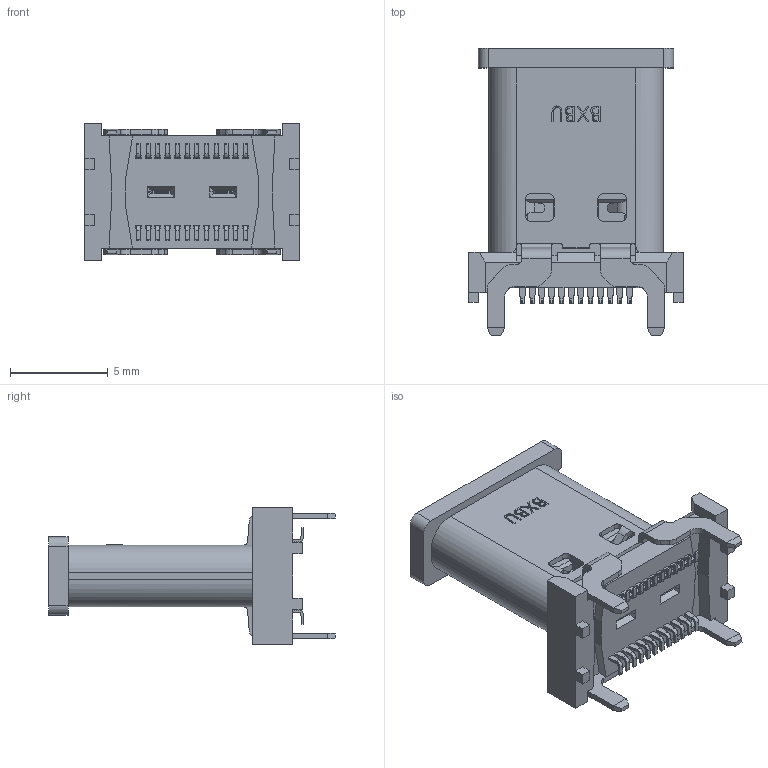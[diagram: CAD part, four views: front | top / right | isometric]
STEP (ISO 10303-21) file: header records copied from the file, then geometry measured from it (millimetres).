
FILE_DESCRIPTION((' '),'2;1');
FILE_NAME( 'U5154-24PN12.0L.stp', '2026-05-12T10:25:57', (' '), ('--- ---'), ' V2026.1 Dec 31 2025', ' 2026 (c)', ' ');
FILE_SCHEMA(('AP242_MANAGED_MODEL_BASED_3D_ENGINEERING_MIM_LF { 1 0 10303 442 1 1 4 }'));
Length unit declared in the file: millimetre
Products named in the file (5): COVER_; TYPEC_H12_1; H12_ASM_1_ASM; U5154-24PN12.0L(2); U5154-24PN12.0L
Assembly tree (4 placements, depth 4):
  U5154-24PN12.0L
    U5154-24PN12.0L(2)
      COVER_
      H12_ASM_1_ASM
        TYPEC_H12_1
Bounding box: 11 x 14.7 x 7 mm (x, y, z)
Volume: 350.4 mm3; surface area: 1167.6 mm2
Topology: 138 solids, 139 shells, 2558 faces, 6564 edges, 4295 vertices
Faces by surface type: plane 1889, cylinder 507, bspline 84, cone 70, torus 8
Entity records: 81412 total; most frequent: CARTESIAN_POINT 19185, ORIENTED_EDGE 13123, DIRECTION 12138, EDGE_CURVE 6564, VECTOR 5146, LINE 5146, VERTEX_POINT 4295, AXIS2_PLACEMENT_3D 3496
